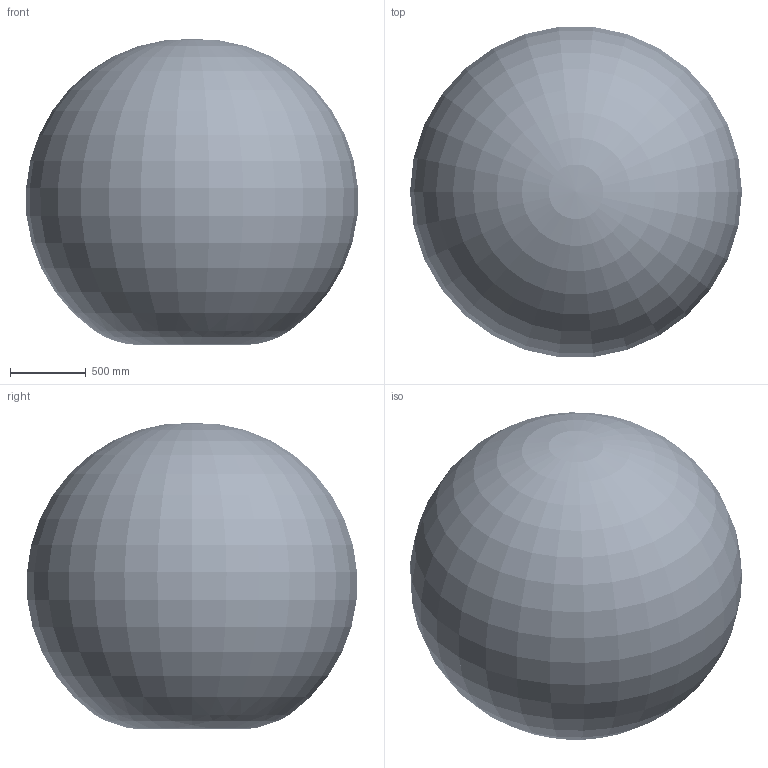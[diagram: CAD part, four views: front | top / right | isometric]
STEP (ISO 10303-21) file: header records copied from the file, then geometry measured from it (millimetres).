
FILE_DESCRIPTION (( 'STEP AP203' ), '1' );
FILE_NAME ('06VX10-A00_00.STEP', '2025-07-15T12:51:20', ( '' ), ( '' ), 'SwSTEP 2.0', 'SolidWorks 2024', '' );
FILE_SCHEMA (( 'CONFIG_CONTROL_DESIGN' ));
Length unit declared in the file: millimetre
Products named in the file (9): GP10_R_AXIS^06VX10-A00_00; GP10_B_AXIS^06VX10-A00_00; GP10_Range^06VX10-A00_00; GP10_U_AXIS^06VX10-A00_00; GP10_BASE_AXIS^06VX10-A00_00; 06VX10-A00_00; GP10_T_AXIS^06VX10-A00_00; G10_S_AXIS^06VX10-A00_00; GP10_L_AXIS^06VX10-A00_00
Assembly tree (8 placements, depth 2):
  06VX10-A00_00
    GP10_BASE_AXIS^06VX10-A00_00
    G10_S_AXIS^06VX10-A00_00
    GP10_L_AXIS^06VX10-A00_00
    GP10_U_AXIS^06VX10-A00_00
    GP10_R_AXIS^06VX10-A00_00
    GP10_B_AXIS^06VX10-A00_00
    GP10_T_AXIS^06VX10-A00_00
    GP10_Range^06VX10-A00_00
Bounding box: 2198.19 x 2186.17 x 2026.38 mm (x, y, z)
Volume: 5297773146 mm3; surface area: 21148555.9 mm2
Topology: 8 solids, 8 shells, 11474 faces, 28973 edges, 18014 vertices
Faces by surface type: plane 4803, cylinder 3101, bspline 1858, cone 862, torus 744, sphere 106
Full cylindrical faces by diameter (mm): 386 x1
Entity records: 513971 total; most frequent: CARTESIAN_POINT 255226, ORIENTED_EDGE 57656, DIRECTION 48511, EDGE_CURVE 28828, VERTEX_POINT 18013, AXIS2_PLACEMENT_3D 17755, LINE 13001, VECTOR 13001
